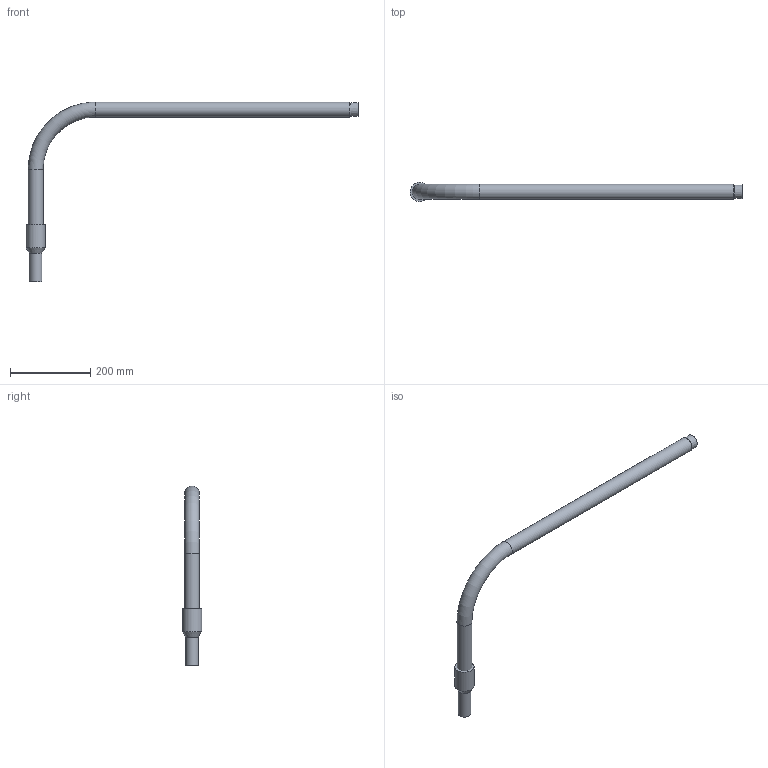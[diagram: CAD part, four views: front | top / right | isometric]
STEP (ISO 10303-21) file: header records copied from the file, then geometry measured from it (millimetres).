
FILE_DESCRIPTION(/* description */ ('Unknown'),/* implementation_level */ '2;1');
FILE_NAME(/* name */ 'RTFZCRP032C',/* time_stamp */ '2022-07-14T11:06:03+02:00',/* author */ ('Unknown'),/* organization */ ('Unknown'),/* preprocessor_version */ 'ST-DEVELOPER v18.102',/* originating_system */ 'Solid Edge',/* authorisation */ 'Unknown');
FILE_SCHEMA (('AUTOMOTIVE_DESIGN {1 0 10303 214 3 1 1}'));
Length unit declared in the file: millimetre
Products named in the file (3): RTFZCRP032C; Parte Acciaio; Parte PE
Assembly tree (2 placements, depth 2):
  RTFZCRP032C
    Parte Acciaio
    Parte PE
Bounding box: 829.33 x 47.95 x 449 mm (x, y, z)
Volume: 628421.5 mm3; surface area: 252104.5 mm2
Topology: 2 solids, 2 shells, 18 faces, 32 edges, 19 vertices
Faces by surface type: cylinder 8, plane 5, cone 3, torus 2
Full cylindrical faces by diameter (mm): 26 x1, 27.3 x2, 32 x1, 33.7 x1, 37.3 x2, 48 x1
Entity records: 512 total; most frequent: DIRECTION 78, CARTESIAN_POINT 57, AXIS2_PLACEMENT_3D 39, ORIENTED_EDGE 36, EDGE_LOOP 36, FACE_BOUND 36, EDGE_CURVE 18, VERTEX_POINT 18
